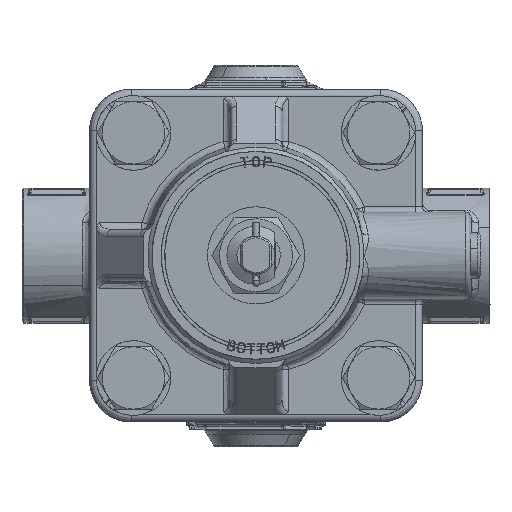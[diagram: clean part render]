
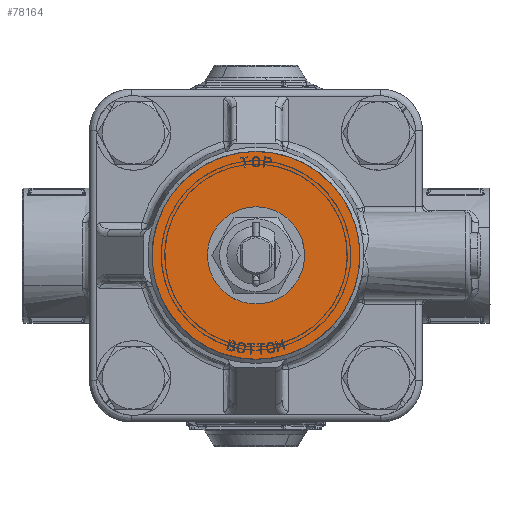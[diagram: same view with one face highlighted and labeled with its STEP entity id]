
A CAD part, top view. The second image highlights one B-rep face of the part: STEP entity #78164.
In plain terms, the highlighted free-form (B-spline) face has degree [1, 1] with [2, 2] control points.
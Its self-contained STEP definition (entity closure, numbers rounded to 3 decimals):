
#77843=CARTESIAN_POINT('',(-20.268,22.118,28.2));
#77844=VERTEX_POINT('',#77843);
#77850=CARTESIAN_POINT('',(0.,30.,28.2));
#77851=VERTEX_POINT('',#77850);
#77852=CARTESIAN_POINT('',(0.,30.,28.2));
#77853=CARTESIAN_POINT('',(-1.97,30.,28.2));
#77854=CARTESIAN_POINT('',(-6.027,29.599,28.2));
#77855=CARTESIAN_POINT('',(-11.48,27.904,28.2));
#77856=CARTESIAN_POINT('',(-16.31,25.348,28.2));
#77857=CARTESIAN_POINT('',(-18.986,23.293,28.2));
#77858=CARTESIAN_POINT('',(-20.268,22.118,28.2));
#77859=B_SPLINE_CURVE_WITH_KNOTS('',3,(#77852,#77853,#77854,#77855,#77856,#77857,#77858),.UNSPECIFIED.,.F.,.U.,(4,1,1,1,4),(0.,5.911,12.17,17.038,22.253),.UNSPECIFIED.);
#77860=EDGE_CURVE('',#77851,#77844,#77859,.T.);
#77862=CARTESIAN_POINT('',(30.,0.,28.2));
#77863=VERTEX_POINT('',#77862);
#77864=CARTESIAN_POINT('',(30.,0.,28.2));
#77865=CARTESIAN_POINT('',(30.,1.902,28.2));
#77866=CARTESIAN_POINT('',(29.666,5.4,28.2));
#77867=CARTESIAN_POINT('',(28.271,10.442,28.2));
#77868=CARTESIAN_POINT('',(26.088,15.132,28.2));
#77869=CARTESIAN_POINT('',(23.107,19.364,28.2));
#77870=CARTESIAN_POINT('',(19.843,22.628,28.2));
#77871=CARTESIAN_POINT('',(16.803,24.926,28.2));
#77872=CARTESIAN_POINT('',(13.107,27.127,28.2));
#77873=CARTESIAN_POINT('',(9.212,28.684,28.2));
#77874=CARTESIAN_POINT('',(4.479,29.762,28.2));
#77875=CARTESIAN_POINT('',(1.718,30.,28.2));
#77876=CARTESIAN_POINT('',(0.,30.,28.2));
#77877=B_SPLINE_CURVE_WITH_KNOTS('',3,(#77864,#77865,#77866,#77867,#77868,#77869,#77870,#77871,#77872,#77873,#77874,#77875,#77876),.UNSPECIFIED.,.F.,.U.,(4,1,1,1,1,1,1,1,1,1,4),(0.,5.706,10.492,15.647,21.169,25.955,29.452,32.582,38.84,41.97,47.124),.UNSPECIFIED.);
#77878=EDGE_CURVE('',#77863,#77851,#77877,.T.);
#77880=CARTESIAN_POINT('',(20.268,-22.118,28.2));
#77881=VERTEX_POINT('',#77880);
#77882=CARTESIAN_POINT('',(20.268,-22.118,28.2));
#77883=CARTESIAN_POINT('',(21.7,-20.806,28.2));
#77884=CARTESIAN_POINT('',(24.179,-18.046,28.2));
#77885=CARTESIAN_POINT('',(27.089,-13.272,28.2));
#77886=CARTESIAN_POINT('',(29.37,-7.318,28.2));
#77887=CARTESIAN_POINT('',(30.001,-2.72,28.2));
#77888=CARTESIAN_POINT('',(30.,0.,28.2));
#77889=B_SPLINE_CURVE_WITH_KNOTS('',3,(#77882,#77883,#77884,#77885,#77886,#77887,#77888),.UNSPECIFIED.,.F.,.U.,(4,1,1,1,4),(0.,5.829,11.075,16.71,24.871),.UNSPECIFIED.);
#77890=EDGE_CURVE('',#77881,#77863,#77889,.T.);
#77996=CARTESIAN_POINT('',(0.,-30.,28.2));
#77997=VERTEX_POINT('',#77996);
#77998=CARTESIAN_POINT('',(0.,-30.,28.2));
#77999=CARTESIAN_POINT('',(1.507,-30.,28.2));
#78000=CARTESIAN_POINT('',(4.636,-29.764,28.2));
#78001=CARTESIAN_POINT('',(9.502,-28.615,28.2));
#78002=CARTESIAN_POINT('',(14.957,-26.273,28.2));
#78003=CARTESIAN_POINT('',(18.474,-23.763,28.2));
#78004=CARTESIAN_POINT('',(20.268,-22.118,28.2));
#78005=B_SPLINE_CURVE_WITH_KNOTS('',3,(#77998,#77999,#78000,#78001,#78002,#78003,#78004),.UNSPECIFIED.,.F.,.U.,(4,1,1,1,4),(0.,4.52,9.388,14.951,22.253),.UNSPECIFIED.);
#78006=EDGE_CURVE('',#77997,#77881,#78005,.T.);
#78008=CARTESIAN_POINT('',(-30.,0.,28.2));
#78009=VERTEX_POINT('',#78008);
#78010=CARTESIAN_POINT('',(-30.,0.,28.2));
#78011=CARTESIAN_POINT('',(-30.,-1.902,28.2));
#78012=CARTESIAN_POINT('',(-29.719,-4.847,28.2));
#78013=CARTESIAN_POINT('',(-28.642,-9.202,28.2));
#78014=CARTESIAN_POINT('',(-27.236,-12.814,28.2));
#78015=CARTESIAN_POINT('',(-24.945,-16.888,28.2));
#78016=CARTESIAN_POINT('',(-22.118,-20.465,28.2));
#78017=CARTESIAN_POINT('',(-18.164,-24.071,28.2));
#78018=CARTESIAN_POINT('',(-14.046,-26.679,28.2));
#78019=CARTESIAN_POINT('',(-9.273,-28.655,28.2));
#78020=CARTESIAN_POINT('',(-4.786,-29.75,28.2));
#78021=CARTESIAN_POINT('',(-1.534,-30.,28.2));
#78022=CARTESIAN_POINT('',(0.,-30.,28.2));
#78023=B_SPLINE_CURVE_WITH_KNOTS('',3,(#78010,#78011,#78012,#78013,#78014,#78015,#78016,#78017,#78018,#78019,#78020,#78021,#78022),.UNSPECIFIED.,.F.,.U.,(4,1,1,1,1,1,1,1,1,1,4),(0.,5.706,8.836,13.438,17.303,22.826,27.059,33.318,37.368,42.522,47.124),.UNSPECIFIED.);
#78024=EDGE_CURVE('',#78009,#77997,#78023,.T.);
#78026=CARTESIAN_POINT('',(-20.268,22.118,28.2));
#78027=CARTESIAN_POINT('',(-24.919,17.856,28.2));
#78028=CARTESIAN_POINT('',(-27.459,12.082,28.2));
#78029=CARTESIAN_POINT('',(-30.,6.308,28.2));
#78030=CARTESIAN_POINT('',(-30.,0.,28.2));
#78038=(BOUNDED_CURVE()B_SPLINE_CURVE(2,(#78026,#78027,#78028,#78029,#78030),.UNSPECIFIED.,.F.,.U.)B_SPLINE_CURVE_WITH_KNOTS((3,2,3),(0.,0.5,1.),.UNSPECIFIED.)CURVE()GEOMETRIC_REPRESENTATION_ITEM()RATIONAL_B_SPLINE_CURVE((1.,0.979,1.,0.979,1.))REPRESENTATION_ITEM(''));
#78039=EDGE_CURVE('',#77844,#78009,#78038,.T.);
#78106=CARTESIAN_POINT('',(32.997,-32.997,28.2));
#78107=CARTESIAN_POINT('',(-32.997,-32.997,28.2));
#78108=CARTESIAN_POINT('',(32.997,32.997,28.2));
#78109=CARTESIAN_POINT('',(-32.997,32.997,28.2));
#78110=B_SPLINE_SURFACE_WITH_KNOTS('',1,1,((#78106,#78108),(#78107,#78109)),.UNSPECIFIED.,.F.,.F.,.U.,(2,2),(2,2),(0.,65.994),(0.,65.994),.UNSPECIFIED.);
#78111=ORIENTED_EDGE('',*,*,#78024,.T.);
#78112=ORIENTED_EDGE('',*,*,#78006,.T.);
#78113=ORIENTED_EDGE('',*,*,#77890,.T.);
#78114=ORIENTED_EDGE('',*,*,#77878,.T.);
#78115=ORIENTED_EDGE('',*,*,#77860,.T.);
#78116=ORIENTED_EDGE('',*,*,#78039,.T.);
#78117=EDGE_LOOP('',(#78111,#78112,#78113,#78114,#78115,#78116));
#78118=FACE_OUTER_BOUND('',#78117,.T.);
#78119=CARTESIAN_POINT('',(-4.989,-5.6,28.2));
#78120=VERTEX_POINT('',#78119);
#78121=CARTESIAN_POINT('',(4.989,-5.6,28.2));
#78122=VERTEX_POINT('',#78121);
#78123=CARTESIAN_POINT('',(-4.989,-5.6,28.2));
#78124=CARTESIAN_POINT('',(4.989,-5.6,28.2));
#78125=QUASI_UNIFORM_CURVE('',1,(#78123,#78124),.UNSPECIFIED.,.F.,.U.);
#78126=EDGE_CURVE('',#78120,#78122,#78125,.T.);
#78127=ORIENTED_EDGE('',*,*,#78126,.F.);
#78128=CARTESIAN_POINT('',(0.,7.5,28.2));
#78129=VERTEX_POINT('',#78128);
#78130=CARTESIAN_POINT('',(0.,7.5,28.2));
#78131=CARTESIAN_POINT('',(-0.896,7.501,28.2));
#78132=CARTESIAN_POINT('',(-2.31,7.243,28.2));
#78133=CARTESIAN_POINT('',(-4.177,6.314,28.2));
#78134=CARTESIAN_POINT('',(-5.379,5.305,28.2));
#78135=CARTESIAN_POINT('',(-6.343,4.078,28.2));
#78136=CARTESIAN_POINT('',(-7.096,2.654,28.2));
#78137=CARTESIAN_POINT('',(-7.586,0.665,28.2));
#78138=CARTESIAN_POINT('',(-7.465,-1.337,28.2));
#78139=CARTESIAN_POINT('',(-6.907,-3.048,28.2));
#78140=CARTESIAN_POINT('',(-6.139,-4.41,28.2));
#78141=CARTESIAN_POINT('',(-5.411,-5.224,28.2));
#78142=CARTESIAN_POINT('',(-4.989,-5.6,28.2));
#78143=B_SPLINE_CURVE_WITH_KNOTS('',3,(#78130,#78131,#78132,#78133,#78134,#78135,#78136,#78137,#78138,#78139,#78140,#78141,#78142),.UNSPECIFIED.,.F.,.U.,(4,1,1,1,1,1,1,1,1,1,4),(0.,2.687,4.243,6.223,7.355,8.911,11.032,13.437,14.851,16.407,18.104),.UNSPECIFIED.);
#78144=EDGE_CURVE('',#78129,#78120,#78143,.T.);
#78145=ORIENTED_EDGE('',*,*,#78144,.F.);
#78146=CARTESIAN_POINT('',(4.989,-5.6,28.2));
#78147=CARTESIAN_POINT('',(5.482,-5.161,28.2));
#78148=CARTESIAN_POINT('',(6.289,-4.224,28.2));
#78149=CARTESIAN_POINT('',(7.184,-2.444,28.2));
#78150=CARTESIAN_POINT('',(7.528,-0.762,28.2));
#78151=CARTESIAN_POINT('',(7.487,0.892,28.2));
#78152=CARTESIAN_POINT('',(7.162,2.471,28.2));
#78153=CARTESIAN_POINT('',(6.439,3.972,28.2));
#78154=CARTESIAN_POINT('',(5.286,5.413,28.2));
#78155=CARTESIAN_POINT('',(4.016,6.418,28.2));
#78156=CARTESIAN_POINT('',(2.168,7.273,28.2));
#78157=CARTESIAN_POINT('',(0.849,7.501,28.2));
#78158=CARTESIAN_POINT('',(0.,7.5,28.2));
#78159=B_SPLINE_CURVE_WITH_KNOTS('',3,(#78146,#78147,#78148,#78149,#78150,#78151,#78152,#78153,#78154,#78155,#78156,#78157,#78158),.UNSPECIFIED.,.F.,.U.,(4,1,1,1,1,1,1,1,1,1,4),(0.,1.98,3.677,5.94,7.072,8.628,10.749,12.022,14.144,15.558,18.104),.UNSPECIFIED.);
#78160=EDGE_CURVE('',#78122,#78129,#78159,.T.);
#78161=ORIENTED_EDGE('',*,*,#78160,.F.);
#78162=EDGE_LOOP('',(#78127,#78145,#78161));
#78163=FACE_BOUND('',#78162,.T.);
#78164=ADVANCED_FACE('',(#78118,#78163),#78110,.F.);
